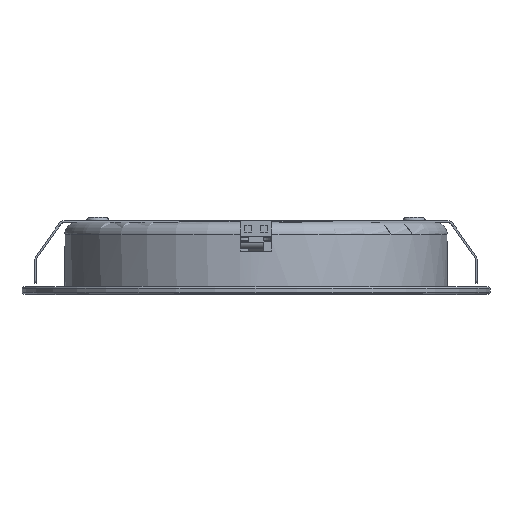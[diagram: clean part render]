
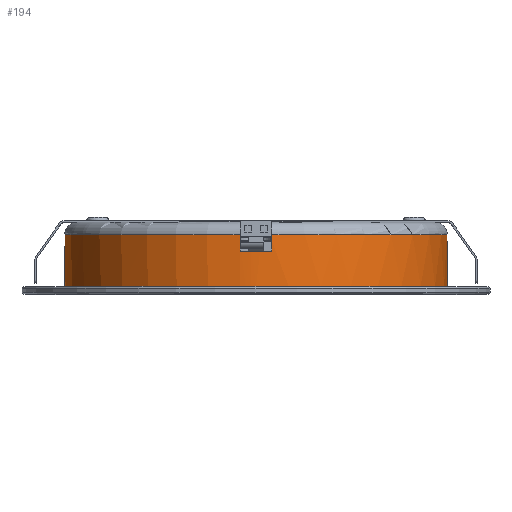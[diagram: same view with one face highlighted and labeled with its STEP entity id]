
A CAD part, top view. The second image highlights one B-rep face of the part: STEP entity #194.
In plain terms, the highlighted cylindrical face has radius 30.3 mm (diameter 60.6 mm), a full revolution.
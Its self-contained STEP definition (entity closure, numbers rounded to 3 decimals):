
#50=FACE_BOUND('',#452,.T.);
#51=FACE_BOUND('',#453,.T.);
#95=CYLINDRICAL_SURFACE('',#1871,30.3);
#130=CIRCLE('',#1867,30.3);
#131=CIRCLE('',#1869,30.3);
#132=CIRCLE('',#1870,30.3);
#194=ADVANCED_FACE('',(#50,#51),#95,.T.);
#452=EDGE_LOOP('',(#620,#621,#622,#623));
#453=EDGE_LOOP('',(#624));
#620=ORIENTED_EDGE('',*,*,#1283,.F.);
#621=ORIENTED_EDGE('',*,*,#1284,.F.);
#622=ORIENTED_EDGE('',*,*,#1282,.F.);
#623=ORIENTED_EDGE('',*,*,#1285,.T.);
#624=ORIENTED_EDGE('',*,*,#1286,.F.);
#1104=VERTEX_POINT('',#2624);
#1105=VERTEX_POINT('',#2626);
#1106=VERTEX_POINT('',#2630);
#1107=VERTEX_POINT('',#2631);
#1108=VERTEX_POINT('',#2635);
#1282=EDGE_CURVE('',#1105,#1104,#130,.T.);
#1283=EDGE_CURVE('',#1106,#1107,#131,.T.);
#1284=EDGE_CURVE('',#1104,#1106,#1516,.T.);
#1285=EDGE_CURVE('',#1105,#1107,#1517,.T.);
#1286=EDGE_CURVE('',#1108,#1108,#132,.T.);
#1516=LINE('',#2632,#1690);
#1517=LINE('',#2633,#1691);
#1690=VECTOR('',#2084,1.);
#1691=VECTOR('',#2085,1.);
#1867=AXIS2_PLACEMENT_3D('',#2627,#2078,#2079);
#1869=AXIS2_PLACEMENT_3D('',#2629,#2082,#2083);
#1870=AXIS2_PLACEMENT_3D('',#2634,#2086,#2087);
#1871=AXIS2_PLACEMENT_3D('',#2636,#2088,#2089);
#2078=DIRECTION('',(0.,1.,0.));
#2079=DIRECTION('',(-0.083,0.,0.997));
#2082=DIRECTION('',(0.,1.,0.));
#2083=DIRECTION('',(1.,0.,0.));
#2084=DIRECTION('',(0.,1.,0.));
#2085=DIRECTION('',(0.,1.,0.));
#2086=DIRECTION('',(0.,-1.,0.));
#2087=DIRECTION('',(0.,0.,1.));
#2088=DIRECTION('',(0.,1.,0.));
#2089=DIRECTION('',(-1.,0.,0.));
#2624=CARTESIAN_POINT('',(34.247,7.738,-1.543));
#2626=CARTESIAN_POINT('',(29.247,7.738,-1.543));
#2627=CARTESIAN_POINT('',(31.747,7.738,-31.74));
#2629=CARTESIAN_POINT('',(31.747,8.738,-31.74));
#2630=CARTESIAN_POINT('',(34.247,8.738,-1.543));
#2631=CARTESIAN_POINT('',(29.247,8.738,-1.543));
#2632=CARTESIAN_POINT('',(34.247,7.738,-1.543));
#2633=CARTESIAN_POINT('',(29.247,7.738,-1.543));
#2634=CARTESIAN_POINT('',(31.747,0.538,-31.74));
#2635=CARTESIAN_POINT('',(31.747,0.538,-1.44));
#2636=CARTESIAN_POINT('',(31.747,0.538,-31.74));
